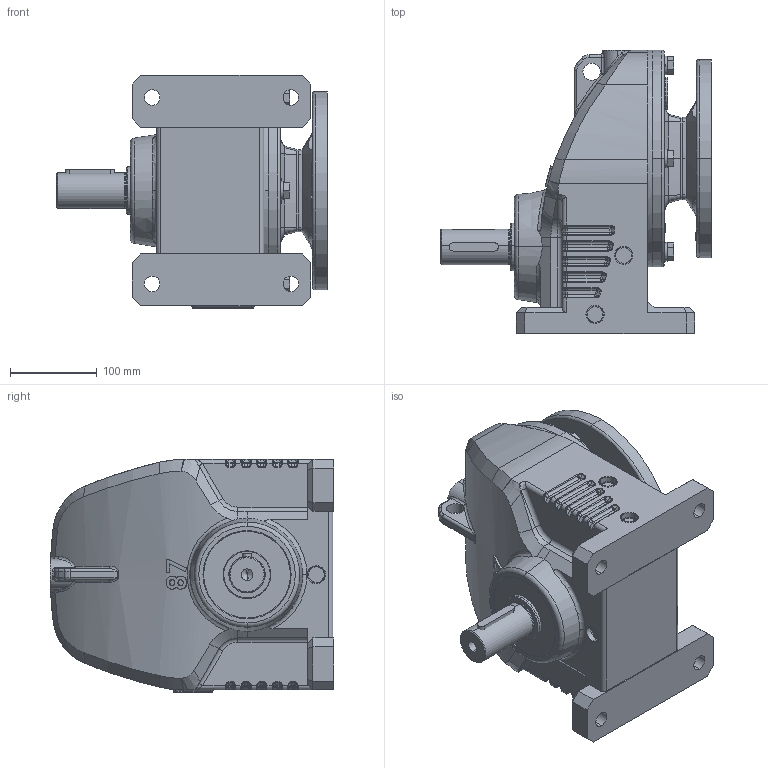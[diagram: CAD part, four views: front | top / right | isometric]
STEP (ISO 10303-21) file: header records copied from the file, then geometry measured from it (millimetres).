
FILE_DESCRIPTION (( 'STEP AP203' ), '1' );
FILE_NAME ('RX087HF-182TC.STEP', '2015-03-16T05:45:00', ( 'user' ), ( '' ), 'SwSTEP 2.0', 'SolidWorks 2012', '' );
FILE_SCHEMA (( 'CONFIG_CONTROL_DESIGN' ));
Length unit declared in the file: millimetre
Products named in the file (26): RX087HF-182TC; JSPC040050005A; PKD3_8057; PCA040_JIS B 2804 Shaft use 40; PBA6308_SKF - 6308 - 10,DE,NC,10_68; PCB100_PCB100; PSS055100121; PBA6309_SKF - 6309 - 10,DE,NC,10_68; 087法蘭入力組合182T_∮22; PKD0606018; PCA018_PCA018; P105_JKGA1822R; PBA6009_PBA6009; PWS12; PTBA12040; PSS045060091; PTAA10035; KFGG182T; KNGH182T18_KNGH182T18; JHGA08703; JKGB09799L_JKGB09799L; PJB04; PCA045; PKD1208025; KEGX087; JCHX087
Assembly tree (40 placements, depth 3):
  RX087HF-182TC
    JCHX087
    KEGX087
    PKD1208025
    PCA045
    PJB04  x5
    JKGB09799L_JKGB09799L
    087法蘭入力組合182T_∮22
      JHGA08703
      KNGH182T18_KNGH182T18
      KFGG182T
      PTAA10035  x4
      PSS045060091
      PTBA12040  x4
      PWS12  x4
      PBA6009_PBA6009  x2
      P105_JKGA1822R
      PCA018_PCA018
      PKD0606018
      PJB04
    PBA6309_SKF - 6309 - 10,DE,NC,10_68
    PSS055100121
    PCB100_PCB100
    PBA6308_SKF - 6308 - 10,DE,NC,10_68
    PCA040_JIS B 2804 Shaft use 40
    PKD3_8057
    JSPC040050005A
Bounding box: 312 x 327.01 x 269 mm (x, y, z)
Volume: 5014488.1 mm3; surface area: 1133245.2 mm2
Topology: 39 solids, 39 shells, 2045 faces, 5611 edges, 3509 vertices
Faces by surface type: cylinder 596, plane 543, torus 331, bspline 227, cone 212, sphere 136
Entity records: 76362 total; most frequent: CARTESIAN_POINT 31723, ORIENTED_EDGE 9034, DIRECTION 8408, EDGE_CURVE 4517, AXIS2_PLACEMENT_3D 3475, VERTEX_POINT 2849, EDGE_LOOP 1926, CIRCLE 1924
